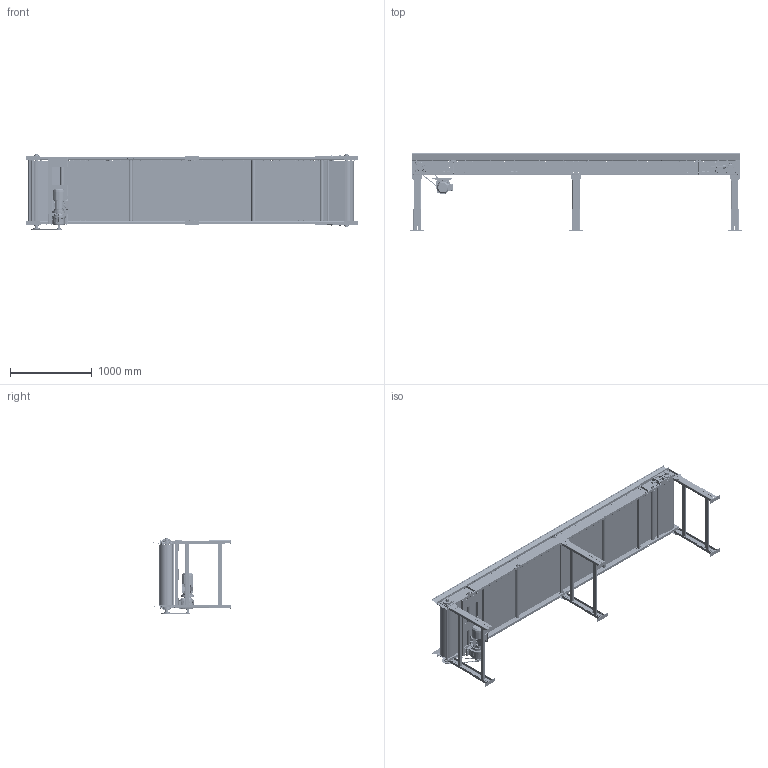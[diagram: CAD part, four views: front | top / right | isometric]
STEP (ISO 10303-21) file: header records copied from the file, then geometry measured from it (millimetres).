
FILE_DESCRIPTION(/* description */ (''),/* implementation_level */ '2;1');
FILE_NAME(/* name */ 'beltconveyor_a046_w730_l4000.stp',/* time_stamp */ '2024-12-21T21:33:32+08:00',/* author */ (''),/* organization */ (''),/* preprocessor_version */ 'ST-DEVELOPER v16.7',/* originating_system */ 'SIEMENS PLM Software NX 12.0',/* authorisation */ '');
FILE_SCHEMA (('AUTOMOTIVE_DESIGN { 1 0 10303 214 3 1 1 1 }'));
Products named in the file (179): placa elemento; tubo 1.25in 1m; tubo industrial 2in; eje hexagonal hg; rol super; tuercaAE; NidoAE; AEStandar; Hex Bolt - Inch 5_16-18 UNC - 0,625; Heavy Hex Bolt - Inch 1_2-13 UNC - 1,5; eje rodillo 6in; tapa rodillo 6in; manzana rodillo de 6in; tubo 6in sch40; bandeja soporte; bandeja motor; angular montaje motor; Heavy Helical Spring Lock Washer (Inch) 5_16; Hex Nut - Inch 1_2 - 13; Plain Washer (Inch) 1_2 - narrow - Type B; Heavy Hex Bolt - Inch 1_2-13 UNC - 1,75; Regular Helical Spring Lock Washer (Inch) 1_2; Helical Spring Lock Washers 0,375; csm; plm; DIN 50 x 25 x 2,5 00000001; DIN 50 x 25 x 2,5 00000002; Plain Washer (Inch) 1_4 - narrow - Type B; Hex Nut - Inch 1_4 - 20; Hex Bolt - Inch 1_4-20 UNC - 0,75; eje rodillo tensi_S_sn 6in; tubo 6in sch40_1; tapa rodillo 6in_1; manzana rodillo de 6in_1; Unbrako UNC Hex Socket Button Cap - Inch 1_4 x 3_4; TU 1.1_2 TF_PART1; TU 1.1_2 TF_PART3; TU 1.1_2 TF_PART2; tubo ca_S_qeria 1_1_2in; eje snub 5_8in-D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
Assembly tree (799 placements, depth 4):
  beltconveyor_a046_w730_l4000
    cabezal tensi_S_sn_1
      caja snub-B
        NormalHexNut 3_8-16 UNC  x2
        U snub
        Hex Cap 3-8x1 UNC  x2
        tapa snub
        placa snub-B
      Bolted Connection_18
        Regular Helical Spring Lock Washer (Inch) 3_8  x3
        Hex Bolt - Inch 3_8-16 UNC - 0,75  x3
      Bolted Connection_17
        Hex Jam Nut - Inch 1_4 - 20  x3
        Helical Spring Lock Washers 0,25  x3
        Hex Bolt - Inch 1_4-20 UNC - 0,625  x3
        Circular Washer (Inch) 1_4  x6
      cabezal tensi_S_sn
      Tuerca tornillo tensor  x2
      Nido  x2
      cu_S_qa-A  x4
      Bolted Connection_20
        Regular Helical Spring Lock Washer (Inch) 5_16  x2
        Hex Bolt - Inch 5_16-18 UNC - 0,75  x2
        Plain Washer (Inch) 5_16 - narrow - Type B  x2
        Hex Nut - Inch 5_16 - 18  x2
      angular union-A  x2
      Mircabezal tensi_S_sn
      Bolted Connection_28
        Regular Helical Spring Lock Washer (Inch) 5_16  x2
        Plain Washer (Inch) 5_16 - narrow - Type B  x2
        Hex Bolt - Inch 5_16-18 UNC - 0,75  x2
        Hex Nut - Inch 5_16 - 18  x2
      Angular tornillo tensor  x2
      placa tuerca  x4
      Bolted Connection_22
        Regular Helical Spring Lock Washer (Inch) 3_8  x3
        Hex Bolt - Inch 3_8-16 UNC - 0,75  x3
      buje cu_S_qa  x6
      tolva tensi_S_sn_MIR
      Tuerca mu_S_qonera tensora  x2
      cama de lamina-F
      Bolted Connection_23
        Regular Helical Spring Lock Washer (Inch) 1_4  x3
        Unbrako UNC Hex Socket Button Cap - Inch 1_4 x 1  x3
      rodillo snub eje 5_8in
        roll super snub-D  x2
        eje snub 5_8in-D
        tubo ca_S_qeria 1_1_2in
      TU 1.1_2 TF  x2
        TU 1.1_2 TF_PART2
        TU 1.1_2 TF_PART3
        TU 1.1_2 TF_PART1
      Bolted Connection_26
        Unbrako UNC Hex Socket Button Cap - Inch 1_4 x 3_4  x3
        Regular Helical Spring Lock Washer (Inch) 1_4  x3
      Bolted Connection_30
        Plain Washer (Inch) 5_16 - narrow - Type B  x2
        Hex Nut - Inch 5_16 - 18  x2
        Regular Helical Spring Lock Washer (Inch) 5_16  x2
        Hex Bolt - Inch 5_16-18 UNC - 0,75  x2
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Bounding box: 4055 x 945 x 929.57 mm (x, y, z)
Volume: 69022259 mm3; surface area: 34399164.7 mm2
Topology: 755 solids, 757 shells, 14872 faces, 35688 edges, 22261 vertices
Faces by surface type: plane 5462, cylinder 4752, cone 3048, bspline 525, torus 519, extrusion 369, sphere 197
Entity records: 227512 total; most frequent: CARTESIAN_POINT 65959, ORIENTED_EDGE 30258, DIRECTION 28376, EDGE_CURVE 15129, AXIS2_PLACEMENT_3D 10781, VERTEX_POINT 9555, VECTOR 6814, EDGE_LOOP 6770
